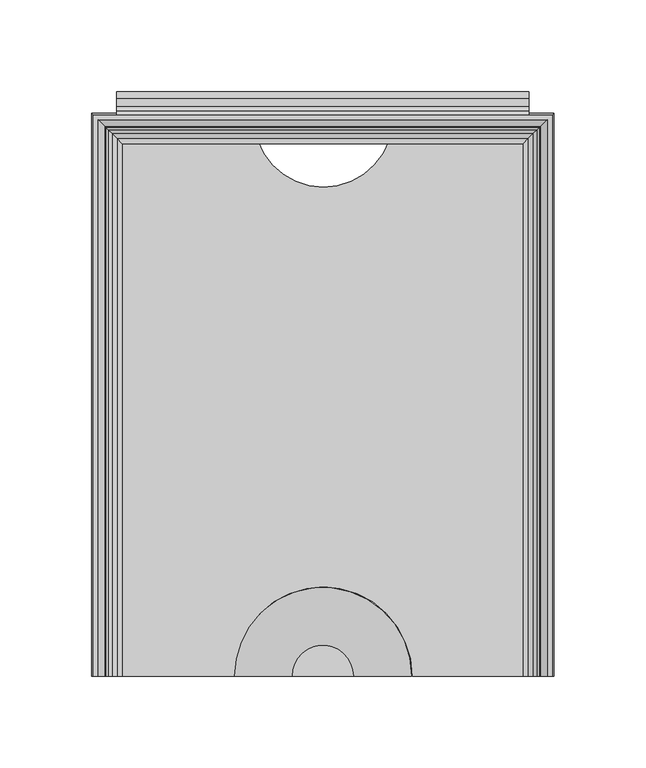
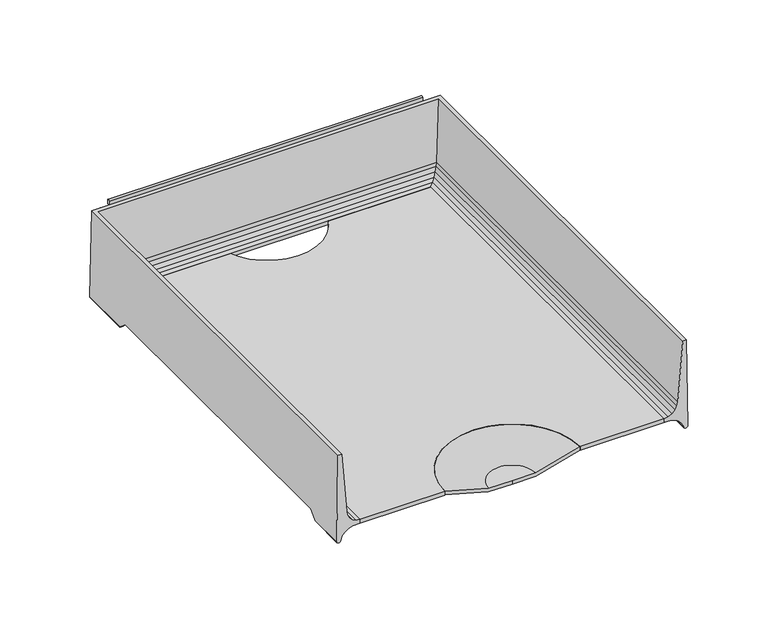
"""IFC4 building model written with IfcOpenShell, lengths in millimetres: furniture geometry."""

from ifc_helpers import new_model, si_unit, point, frame, frame_2d, origin, place, context, project, spatial, polyline, circle_curve, ellipse_curve, trimmed, segment, composite_curve, outline, extrude, source, transform, mapped, element, save
from ifc_brep_helpers import plane_surface, cylinder_surface, revolved_surface, advanced_brep


def furniture_af3f0797(model_context):
    return source(origin(), model_context, "Body", "SolidModel", [
        advanced_brep(
        [(126.0820502, -154.0206082, 831.5382489), (125.1325529, -154.0206082, 896.9376914), (122.4547921, -154.0206082, 896.9376914), (118.8379747, -154.0206082, 852.1506003), (118.4123648, -154.0206082, 849.4171052), (117.0774354, -154.0206082, 846.7160664), (114.9656457, -154.0206082, 844.5671015), (112.28832, -154.0206082, 843.1852261), (109.3133381, -154.0206082, 842.7087052), (109.3133381, -154.0206082, 839.8865971), (114.5666739, -154.0206082, 839.6935987), (117.605351, -154.0206082, 838.6372218), (120.2416, -154.0206082, 836.7933822), (122.2762142, -154.0206082, 834.3014079), (123.1625518, -154.0206082, 831.2581655), (126.0820502, -127.6379698, 831.5382489), (126.0026181, -121.5231874, 837.009372), (126.0026181, 109.0611937, 837.009372), (126.0820502, 115.1759816, 831.5382489), (126.0820502, 153.036442, 831.5382489), (125.1325529, 152.0869447, 896.9376914), (-125.1325529, 152.0869447, 896.9376914), (-125.1325529, -154.0206082, 896.9376914), (-122.4547921, -154.0206082, 896.9376914), (-122.4547921, 149.4091839, 896.9376914), (122.4547921, 149.4091839, 896.9376914), (118.8379747, 145.7923665, 852.1506003), (118.4123648, 145.3667566, 849.4171052), (117.0774354, 144.0318272, 846.7160664), (114.9656457, 141.9200375, 844.5671015), (112.28832, 139.2427118, 843.1852261), (109.3133381, 136.2677299, 842.7087052), (109.3133381, 136.2677299, 839.8865971), (114.5666739, 141.5210656, 839.6935987), (117.605351, 144.5597428, 838.6372218), (120.2416, 147.1959918, 836.7933822), (120.2416, 109.3025941, 836.7933822), (119.9327864, 109.0611937, 837.009372), (119.9327864, -121.5231874, 837.009372), (120.2416, -121.7645876, 836.7933822), (122.2762142, -124.5497344, 834.3014079), (122.2762142, 149.230606, 834.3014079), (122.2762142, 112.0877435, 834.3014079), (123.1625518, -127.9510041, 831.2581655), (123.1625518, 150.1169436, 831.2581655), (123.1625518, 115.4890162, 831.2581655), (-126.0820502, 153.036442, 831.5382489), (-118.8379747, 145.7923665, 852.1506003), (-118.4123648, 145.3667566, 849.4171052), (-117.0774354, 144.0318272, 846.7160664), (-114.9656457, 141.9200375, 844.5671015), (-112.28832, 139.2427118, 843.1852261), (-109.3133381, 136.2677299, 842.7087052), (-109.3133381, 136.2677299, 839.8865971), (-114.5666739, 141.5210656, 839.6935987), (-117.605351, 144.5597428, 838.6372218), (-120.2416, 147.1959918, 836.7933822), (-122.2762142, 149.230606, 834.3014079), (-123.1625518, 150.1169436, 831.2581655), (-126.0820502, -154.0206082, 831.5382489), (-123.1625518, -154.0206082, 831.2581655), (-122.2762142, -154.0206082, 834.3014079), (-120.2416, -154.0206082, 836.7933822), (-117.605351, -154.0206082, 838.6372218), (-114.5666739, -154.0206082, 839.6935987), (-109.3133381, -154.0206082, 839.8865971), (-109.3133381, -154.0206082, 842.7087052), (-112.28832, -154.0206082, 843.1852261), (-114.9656457, -154.0206082, 844.5671015), (-117.0774354, -154.0206082, 846.7160664), (-118.4123648, -154.0206082, 849.4171052), (-118.8379747, -154.0206082, 852.1506003), (-126.0820502, 115.1759816, 831.5382489), (-126.0026181, 109.0611937, 837.009372), (-126.0026181, -121.5231874, 837.009372), (-126.0820502, -127.6379698, 831.5382489), (-120.2416, -121.7645876, 836.7933822), (-119.9327864, -121.5231874, 837.009372), (-119.9327864, 109.0611937, 837.009372), (-120.2416, 109.3025941, 836.7933822), (-122.2762142, 112.0877435, 834.3014079), (-122.2762142, -124.5497344, 834.3014079), (-123.1625518, 115.4890162, 831.2581655), (-123.1625518, -127.9510041, 831.2581655)],
        [
            (0, 1),
            (1, 2),
            (2, 3),
            (3, 4),
            (4, 5),
            (5, 6),
            (6, 7),
            (7, 8),
            (8, 9),
            (9, 10),
            (10, 11),
            (11, 12),
            (12, 13),
            (13, 14),
            (14, 0, circle_curve(frame((124.5859452, -154.0206082, 831.7771685), z_axis=(0.0, -1.0, 0.0), x_axis=(-1.0, 0.0, 0.0)), 1.515062)),
            (0, 15),
            (15, 16),
            (16, 17),
            (17, 18),
            (18, 19),
            (19, 20),
            (20, 1),
            (20, 21),
            (21, 22),
            (22, 23),
            (23, 24),
            (24, 25),
            (25, 2),
            (25, 26),
            (26, 3),
            (26, 27),
            (27, 4),
            (27, 28),
            (28, 5),
            (28, 29),
            (29, 6),
            (29, 30),
            (30, 7),
            (30, 31),
            (31, 8),
            (31, 32),
            (32, 9),
            (32, 33),
            (33, 10),
            (33, 34),
            (34, 11),
            (34, 35),
            (35, 36),
            (36, 37),
            (37, 38),
            (38, 39),
            (39, 12),
            (39, 40),
            (40, 13),
            (35, 41),
            (41, 42),
            (42, 36),
            (40, 43),
            (43, 14),
            (41, 44),
            (44, 45),
            (45, 42),
            (43, 15, ellipse_curve(frame((124.5859452, -127.3709422, 831.7771685), z_axis=(0.0, -0.6667949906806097, 0.7452411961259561), x_axis=(0.0, -0.7452411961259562, -0.6667949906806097)), 2.2721556, 1.515062)),
            (44, 19, ellipse_curve(frame((124.5859452, 151.540337, 831.7771685), z_axis=(0.7071067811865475, -0.7071067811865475, 0.0), x_axis=(-0.7071067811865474, -0.7071067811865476, 0.0)), 2.1426212, 1.515062)),
            (18, 45, ellipse_curve(frame((124.5859452, 114.9089538, 831.7771685), z_axis=(0.0, 0.6667946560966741, 0.7452414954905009), x_axis=(0.0, -0.7452414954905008, 0.6667946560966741)), 2.2721567, 1.515062)),
            (19, 46),
            (46, 21),
            (24, 47),
            (47, 26),
            (47, 48),
            (48, 27),
            (48, 49),
            (49, 28),
            (49, 50),
            (50, 29),
            (50, 51),
            (51, 30),
            (51, 52),
            (52, 31),
            (52, 53),
            (53, 32),
            (53, 54),
            (54, 33),
            (54, 55),
            (55, 34),
            (55, 56),
            (56, 35),
            (56, 57),
            (57, 41),
            (57, 58),
            (58, 44),
            (58, 46, ellipse_curve(frame((-124.5859452, 151.540337, 831.7771685), z_axis=(0.7071067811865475, 0.7071067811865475, 0.0), x_axis=(0.7071067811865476, -0.7071067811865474, 0.0)), 2.1426212, 1.515062)),
            (22, 59),
            (59, 60, circle_curve(frame((-124.5859452, -154.0206082, 831.7771685), z_axis=(0.0, -1.0, 0.0), x_axis=(1.0, 0.0, 0.0)), 1.515062)),
            (60, 61),
            (61, 62),
            (62, 63),
            (63, 64),
            (64, 65),
            (65, 66),
            (66, 67),
            (67, 68),
            (68, 69),
            (69, 70),
            (70, 71),
            (71, 23),
            (46, 72),
            (72, 73),
            (73, 74),
            (74, 75),
            (75, 59),
            (71, 47),
            (70, 48),
            (69, 49),
            (68, 50),
            (67, 51),
            (66, 52),
            (65, 53),
            (64, 54),
            (63, 55),
            (62, 76),
            (76, 77),
            (77, 78),
            (78, 79),
            (79, 56),
            (79, 80),
            (80, 57),
            (61, 81),
            (81, 76),
            (80, 82),
            (82, 58),
            (60, 83),
            (83, 81),
            (82, 72, ellipse_curve(frame((-124.5859452, 114.9089538, 831.7771685), z_axis=(0.0, 0.6667946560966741, 0.7452414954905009), x_axis=(0.0, 0.7452414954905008, -0.6667946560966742)), 2.2721567, 1.515062)),
            (75, 83, ellipse_curve(frame((-124.5859452, -127.3709422, 831.7771685), z_axis=(0.0, -0.6667949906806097, 0.7452411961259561), x_axis=(0.0, 0.745241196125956, 0.6667949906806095)), 2.2721556, 1.515062)),
            (38, 16),
            (74, 77),
            (37, 17),
            (73, 78),
        ],
        [
            plane_surface(frame((127.0, -154.0206082, 830.2625), z_axis=(0.0, -1.0, 0.0), x_axis=(0.0, 0.0, 1.0))),
            plane_surface(frame((126.0820502, -154.0206082, 831.5382489), z_axis=(0.9998946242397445, 0.0, 0.014516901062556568), x_axis=(0.0, 1.0, 0.0))),
            plane_surface(frame((125.1325529, -154.0206082, 896.9376914), z_axis=(0.0, 0.0, 1.0), x_axis=(0.0, 1.0, 0.0))),
            plane_surface(frame((122.4547921, -154.0206082, 896.9376914), z_axis=(-0.9967551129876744, 0.0, 0.08049375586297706), x_axis=(0.0, 1.0, 0.0))),
            plane_surface(frame((118.8379747, -154.0206082, 852.1506003), z_axis=(-0.9880945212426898, 0.0, 0.15384803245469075), x_axis=(0.0, 1.0, 0.0))),
            plane_surface(frame((118.4123648, -154.0206082, 849.4171052), z_axis=(-0.8964873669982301, 0.0, 0.44306929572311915), x_axis=(0.0, 1.0, 0.0))),
            plane_surface(frame((117.0774354, -154.0206082, 846.7160664), z_axis=(-0.7132491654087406, 0.0, 0.7009105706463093), x_axis=(0.0, 1.0, 0.0))),
            plane_surface(frame((114.9656457, -154.0206082, 844.5671015), z_axis=(-0.45865074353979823, 0.0, 0.8886166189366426), x_axis=(0.0, 1.0, 0.0))),
            plane_surface(frame((112.28832, -154.0206082, 843.1852261), z_axis=(-0.15816001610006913, 0.0, 0.987413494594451), x_axis=(0.0, 1.0, 0.0))),
            plane_surface(frame((109.3133381, -154.0206082, 842.7087052), z_axis=(-1.0, 0.0, 0.0), x_axis=(0.0, 1.0, 0.0))),
            plane_surface(frame((109.3133381, -154.0206082, 839.8865971), z_axis=(-0.036713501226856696, 0.0, -0.9993258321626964), x_axis=(0.0, 1.0, 0.0))),
            plane_surface(frame((114.5666739, -154.0206082, 839.6935987), z_axis=(-0.3283669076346, 0.0, -0.9445502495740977), x_axis=(0.0, 1.0, 0.0))),
            plane_surface(frame((117.605351, -154.0206082, 838.6372218), z_axis=(-0.5731421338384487, 0.0, -0.819455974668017), x_axis=(0.0, 1.0, 0.0))),
            plane_surface(frame((120.2416, -154.0206082, 836.7933822), z_axis=(-0.77460799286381, 0.0, -0.6324416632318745), x_axis=(0.0, 1.0, 0.0))),
            plane_surface(frame((122.2762142, -154.0206082, 834.3014079), z_axis=(-0.9601080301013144, 0.0, -0.2796293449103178), x_axis=(0.0, 1.0, 0.0))),
            cylinder_surface(frame((124.5859452, -154.0206082, 831.7771685), z_axis=(0.0, -1.0, 0.0), x_axis=(-1.0, 0.0, 0.0)), 1.515062),
            plane_surface(frame((126.0820502, 153.036442, 831.5382489), z_axis=(0.0, 0.9998946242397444, 0.014516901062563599), x_axis=(-1.0, 0.0, 0.0))),
            plane_surface(frame((122.4547921, 149.4091839, 896.9376914), z_axis=(0.0, -0.9967551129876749, 0.08049375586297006), x_axis=(-1.0, 0.0, 0.0))),
            plane_surface(frame((118.8379747, 145.7923665, 852.1506003), z_axis=(0.0, -0.9880945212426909, 0.15384803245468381), x_axis=(-1.0, 0.0, 0.0))),
            plane_surface(frame((118.4123648, 145.3667566, 849.4171052), z_axis=(0.0, -0.8964873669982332, 0.4430692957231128), x_axis=(-1.0, 0.0, 0.0))),
            plane_surface(frame((117.0774354, 144.0318272, 846.7160664), z_axis=(0.0, -0.7132491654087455, 0.7009105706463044), x_axis=(-1.0, 0.0, 0.0))),
            plane_surface(frame((114.9656457, 141.9200375, 844.5671015), z_axis=(0.0, -0.4586507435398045, 0.8886166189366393), x_axis=(-1.0, 0.0, 0.0))),
            plane_surface(frame((112.28832, 139.2427118, 843.1852261), z_axis=(0.0, -0.15816001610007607, 0.9874134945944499), x_axis=(-1.0, 0.0, 0.0))),
            plane_surface(frame((109.3133381, 136.2677299, 842.7087052), z_axis=(0.0, -1.0, 0.0), x_axis=(-1.0, 0.0, 0.0))),
            plane_surface(frame((109.3133381, 136.2677299, 839.8865971), z_axis=(0.0, -0.03671350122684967, -0.9993258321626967), x_axis=(-1.0, 0.0, 0.0))),
            plane_surface(frame((114.5666739, 141.5210656, 839.6935987), z_axis=(0.0, -0.32836690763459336, -0.9445502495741), x_axis=(-1.0, 0.0, 0.0))),
            plane_surface(frame((117.605351, 144.5597428, 838.6372218), z_axis=(0.0, -0.5731421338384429, -0.819455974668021), x_axis=(-1.0, 0.0, 0.0))),
            plane_surface(frame((120.2416, 147.1959918, 836.7933822), z_axis=(0.0, -0.7746079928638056, -0.6324416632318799), x_axis=(-1.0, 0.0, 0.0))),
            plane_surface(frame((122.2762142, 149.230606, 834.3014079), z_axis=(0.0, -0.9601080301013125, -0.27962934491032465), x_axis=(-1.0, 0.0, 0.0))),
            cylinder_surface(frame((127.0, 151.540337, 831.7771685), z_axis=(1.0, 0.0, 0.0), x_axis=(0.0, -1.0, 0.0)), 1.515062),
            plane_surface(frame((-127.0, -154.0206082, 830.2625), z_axis=(0.0, -1.0, 0.0), x_axis=(0.0, 0.0, 1.0))),
            plane_surface(frame((-126.0820502, 153.036442, 831.5382489), z_axis=(-0.9998946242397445, 0.0, 0.014516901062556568), x_axis=(0.0, -1.0, 0.0))),
            plane_surface(frame((-122.4547921, 149.4091839, 896.9376914), z_axis=(0.9967551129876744, 0.0, 0.08049375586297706), x_axis=(0.0, -1.0, 0.0))),
            plane_surface(frame((-118.8379747, 145.7923665, 852.1506003), z_axis=(0.9880945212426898, 0.0, 0.15384803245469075), x_axis=(0.0, -1.0, 0.0))),
            plane_surface(frame((-118.4123648, 145.3667566, 849.4171052), z_axis=(0.8964873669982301, 0.0, 0.44306929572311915), x_axis=(0.0, -1.0, 0.0))),
            plane_surface(frame((-117.0774354, 144.0318272, 846.7160664), z_axis=(0.7132491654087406, 0.0, 0.7009105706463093), x_axis=(0.0, -1.0, 0.0))),
            plane_surface(frame((-114.9656457, 141.9200375, 844.5671015), z_axis=(0.45865074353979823, 0.0, 0.8886166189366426), x_axis=(0.0, -1.0, 0.0))),
            plane_surface(frame((-112.28832, 139.2427118, 843.1852261), z_axis=(0.15816001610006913, 0.0, 0.987413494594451), x_axis=(0.0, -1.0, 0.0))),
            plane_surface(frame((-109.3133381, 136.2677299, 842.7087052), z_axis=(1.0, 0.0, 0.0), x_axis=(0.0, -1.0, 0.0))),
            plane_surface(frame((-109.3133381, 136.2677299, 839.8865971), z_axis=(0.036713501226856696, 0.0, -0.9993258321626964), x_axis=(0.0, -1.0, 0.0))),
            plane_surface(frame((-114.5666739, 141.5210656, 839.6935987), z_axis=(0.3283669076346, 0.0, -0.9445502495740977), x_axis=(0.0, -1.0, 0.0))),
            plane_surface(frame((-117.605351, 144.5597428, 838.6372218), z_axis=(0.5731421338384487, 0.0, -0.819455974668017), x_axis=(0.0, -1.0, 0.0))),
            plane_surface(frame((-120.2416, 147.1959918, 836.7933822), z_axis=(0.77460799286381, 0.0, -0.6324416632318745), x_axis=(0.0, -1.0, 0.0))),
            plane_surface(frame((-122.2762142, 149.230606, 834.3014079), z_axis=(0.9601080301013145, 0.0, -0.2796293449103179), x_axis=(0.0, -1.0, 0.0))),
            cylinder_surface(frame((-124.5859452, 153.9543918, 831.7771685), z_axis=(0.0, 1.0, 0.0), x_axis=(1.0, 0.0, 0.0)), 1.515062),
            plane_surface(frame((-127.0, -130.1695728, 829.2731296), z_axis=(0.0, 0.6667949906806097, -0.7452411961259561), x_axis=(1.0, 0.0, 0.0))),
            plane_surface(frame((-127.0, -121.5231874, 837.009372), z_axis=(0.0, 0.0, -1.0), x_axis=(1.0, 0.0, 0.0))),
            plane_surface(frame((-127.0, 109.0611937, 837.009372), z_axis=(0.0, -0.6667946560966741, -0.7452414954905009), x_axis=(1.0, 0.0, 0.0))),
        ],
        [
            (0, [[1, 2, 3, 4, 5, 6, 7, 8, 9, 10, 11, 12, 13, 14, 15]]),
            (1, [[-1, 16, 17, 18, 19, 20, 21, 22]]),
            (2, [[-2, -22, 23, 24, 25, 26, 27, 28]]),
            (3, [[-3, -28, 29, 30]]),
            (4, [[-4, -30, 31, 32]]),
            (5, [[-5, -32, 33, 34]]),
            (6, [[-6, -34, 35, 36]]),
            (7, [[-7, -36, 37, 38]]),
            (8, [[-8, -38, 39, 40]]),
            (9, [[-9, -40, 41, 42]]),
            (10, [[-10, -42, 43, 44]]),
            (11, [[-11, -44, 45, 46]]),
            (12, [[-12, -46, 47, 48, 49, 50, 51, 52]]),
            (13, [[-13, -52, 53, 54]]),
            (13, [[55, 56, 57, -48]]),
            (14, [[-14, -54, 58, 59]]),
            (14, [[60, 61, 62, -56]]),
            (15, [[-15, -59, 63, -16]]),
            (15, [[64, -20, 65, -61]]),
            (16, [[-21, 66, 67, -23]]),
            (17, [[-27, 68, 69, -29]]),
            (18, [[-31, -69, 70, 71]]),
            (19, [[-33, -71, 72, 73]]),
            (20, [[-35, -73, 74, 75]]),
            (21, [[-37, -75, 76, 77]]),
            (22, [[-39, -77, 78, 79]]),
            (23, [[-41, -79, 80, 81]]),
            (24, [[-43, -81, 82, 83]]),
            (25, [[-45, -83, 84, 85]]),
            (26, [[-47, -85, 86, 87]]),
            (27, [[-55, -87, 88, 89]]),
            (28, [[-60, -89, 90, 91]]),
            (29, [[-64, -91, 92, -66]]),
            (30, [[-25, 93, 94, 95, 96, 97, 98, 99, 100, 101, 102, 103, 104, 105, 106]]),
            (31, [[-24, -67, 107, 108, 109, 110, 111, -93]]),
            (32, [[-26, -106, 112, -68]]),
            (33, [[-70, -112, -105, 113]]),
            (34, [[-72, -113, -104, 114]]),
            (35, [[-74, -114, -103, 115]]),
            (36, [[-76, -115, -102, 116]]),
            (37, [[-78, -116, -101, 117]]),
            (38, [[-80, -117, -100, 118]]),
            (39, [[-82, -118, -99, 119]]),
            (40, [[-84, -119, -98, 120]]),
            (41, [[-86, -120, -97, 121, 122, 123, 124, 125]]),
            (42, [[-88, -125, 126, 127]]),
            (42, [[-96, 128, 129, -121]]),
            (43, [[-90, -127, 130, 131]]),
            (43, [[-95, 132, 133, -128]]),
            (44, [[-92, -131, 134, -107]]),
            (44, [[-94, -111, 135, -132]]),
            (45, [[136, -17, -63, -58, -53, -51]]),
            (45, [[137, -122, -129, -133, -135, -110]]),
            (46, [[-136, -50, 138, -18]]),
            (46, [[-137, -109, 139, -123]]),
            (47, [[-138, -49, -57, -62, -65, -19]]),
            (47, [[-139, -108, -134, -130, -126, -124]]),
        ],
    ),
        extrude(outline(composite_curve([segment(polyline([(-109.3647805, 138.2769393), (-35.6610422, 138.2769393)]), True, "CONTINUOUS"), segment(trimmed(circle_curve(frame_2d((0.3369133, 150.6584166)), 38.0677525), [point((-35.6610422, 138.2769393))], [point((36.3348688, 138.2769393))], True, "CARTESIAN"), True, "CONTINUOUS"), segment(polyline([(36.3348688, 138.2769393), (109.6504969, 138.2769393), (109.6504969, -153.9875), (48.9112184, -153.9875)]), True, "CONTINUOUS"), segment(trimmed(circle_curve(frame_2d((0.2842795, -153.9323196)), 48.6269702), [point((48.9112184, -153.9875))], [point((-48.3426595, -153.9875))], True, "CARTESIAN"), True, "CONTINUOUS"), segment(polyline([(-48.3426595, -153.9875), (-109.3647805, -153.9875), (-109.3647805, 138.2769393)]), True, "CONTINUOUS")], self_intersect=False)), frame((0.0, 0.0, 839.8689677), z_axis=(0.0, 0.0, 1.0), x_axis=(1.0, 0.0, 0.0)), (0.0, 0.0, 1.0), 2.8395461),
        extrude(outline(composite_curve([segment(trimmed(circle_curve(frame_2d((162.7186949, 881.1082343)), 1.9049988), [point((164.6236937, 881.1082343))], [point((160.8136962, 881.1082343))], False, "CARTESIAN"), True, "CONTINUOUS"), segment(polyline([(160.8136962, 881.1082343), (160.8136962, 884.5372311), (160.0516969, 885.2992303), (156.4380325, 885.2992303), (152.1427596, 882.9518331), (152.1427596, 891.4566285), (156.4380325, 889.1092312), (160.8136928, 889.1092312)]), True, "CONTINUOUS"), segment(trimmed(circle_curve(frame_2d((160.8136928, 885.2992303)), 3.8100009), [point((160.8136928, 889.1092312))], [point((164.6236937, 885.2992303))], False, "CARTESIAN"), True, "CONTINUOUS"), segment(polyline([(164.6236937, 885.2992303), (164.6236937, 881.1082343)]), True, "CONTINUOUS")], self_intersect=False)), frame((-112.5397809, 0.0, 0.0), z_axis=(1.0, 0.0, 0.0), x_axis=(0.0, 1.0, 0.0)), (0.0, 0.0, 1.0), 225.0795617),
        advanced_brep(
        [(-16.8929028, -153.9875, 833.834375), (-48.4614622, -153.9875, 842.7420432), (-48.4614622, -153.9875, 840.1505018), (-16.9249292, -153.9875, 831.2518704), (0.0, -153.9875, 831.2518704), (0.0, -153.9875, 833.834375), (16.8929028, -153.9875, 833.834375), (16.9249292, -153.9875, 831.2518704), (48.4614622, -153.9875, 840.1505018), (48.4614622, -153.9875, 842.7420432)],
        [
            (0, 1),
            (1, 2),
            (2, 3),
            (3, 4),
            (4, 5),
            (5, 0),
            (6, 5),
            (4, 7),
            (7, 8),
            (8, 9),
            (9, 6),
            (9, 1, circle_curve(frame((0.0, -153.9875, 842.7420432), z_axis=(0.0, 0.0, 1.0), x_axis=(-1.0, 0.0, 0.0)), 48.4614622)),
            (0, 6, circle_curve(frame((0.0, -153.9875, 833.834375), z_axis=(0.0, 0.0, -1.0), x_axis=(-1.0, 0.0, 0.0)), 16.8929028)),
            (8, 2, circle_curve(frame((0.0, -153.9875, 840.1505018), z_axis=(0.0, 0.0, 1.0), x_axis=(-1.0, 0.0, 0.0)), 48.4614622)),
            (7, 3, circle_curve(frame((0.0, -153.9875, 831.2518704), z_axis=(0.0, 0.0, 1.0), x_axis=(-1.0, 0.0, 0.0)), 16.9249292)),
        ],
        [
            plane_surface(frame((0.0, -153.9875, 830.2625), z_axis=(0.0, -1.0, 0.0), x_axis=(-1.0, 0.0, 0.0))),
            plane_surface(frame((0.0, -153.9875, 830.2625), z_axis=(0.0, -1.0, 0.0), x_axis=(1.0, 0.0, 0.0))),
            revolved_surface(polyline([(-48.4614622, -153.9875, 842.7420432), (-16.8929028, -153.9875, 833.834375)]), (0.0, -153.9875, 830.2625), (0.0, 0.0, 1.0)),
            cylinder_surface(frame((0.0, -153.9875, 830.2625), z_axis=(0.0, 0.0, 1.0), x_axis=(-1.0, 0.0, 0.0)), 48.4614622),
            revolved_surface(polyline([(-16.9249292, -153.9875, 831.2518704), (-48.4614622, -153.9875, 840.1505018)]), (0.0, -153.9875, 830.2625), (0.0, 0.0, 1.0)),
            plane_surface(frame((0.0, -153.9875, 831.2518704), z_axis=(0.0, 0.0, -1.0), x_axis=(-1.0, 0.0, 0.0))),
            plane_surface(frame((0.0, -153.9875, 833.834375), z_axis=(0.0, 0.0, 1.0), x_axis=(-1.0, 0.0, 0.0))),
        ],
        [
            (0, [[1, 2, 3, 4, 5, 6]]),
            (1, [[7, -5, 8, 9, 10, 11]]),
            (2, [[12, -1, 13, -11]]),
            (3, [[14, -2, -12, -10]]),
            (4, [[15, -3, -14, -9]]),
            (5, [[-4, -15, -8]]),
            (6, [[-13, -6, -7]]),
        ],
    ),
        extrude(outline(composite_curve([segment(polyline([(153.9875, 896.9375), (152.1427596, 896.9375), (152.1427596, 899.7690333)]), True, "CONTINUOUS"), segment(trimmed(circle_curve(frame_2d((153.0651298, 899.4637665)), 0.9715733), [point((152.1427596, 899.7690333))], [point((153.9875, 899.7690333))], False, "CARTESIAN"), True, "CONTINUOUS"), segment(polyline([(153.9875, 899.7690333), (153.9875, 896.9375)]), True, "CONTINUOUS")], self_intersect=False)), frame((-112.5397809, 0.0, 0.0), z_axis=(1.0, 0.0, 0.0), x_axis=(0.0, 1.0, 0.0)), (0.0, 0.0, 1.0), 225.0795617),
    ])


if __name__ == "__main__":
    model = new_model("IFC4")
    model_context = context("Model", 3, world=origin())
    ifc_project = project(units=[si_unit("LENGTHUNIT", "METRE", prefix="MILLI")], contexts=[model_context])
    site = spatial("IfcSite", under=ifc_project)
    building = spatial("IfcBuilding", under=site)
    placement = place(None, origin())
    furniture_shape = furniture_af3f0797(model_context)
    element("IfcFurniture", 1, ObjectType="HermanMiller_ThrivePortfolio_Y7216_PaperTray : 3\"H x 12\"D x 10\"W", at=placement, inside=building, context=model_context, shape_type="MappedRepresentation", body=[
        mapped(furniture_shape, transform((0.0, 0.0, 0.0), x_axis=(1.0, 0.0, 0.0), y_axis=(0.0, 1.0, 0.0), z_axis=(0.0, 0.0, 1.0))),
    ])
    save(model, "model.ifc")
